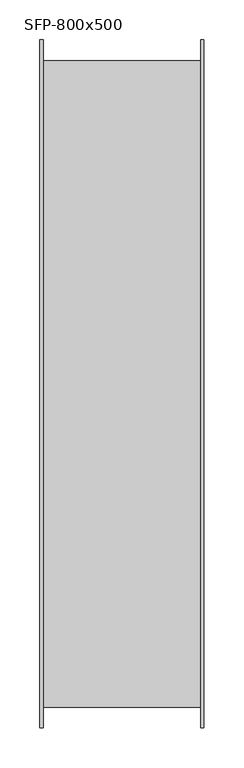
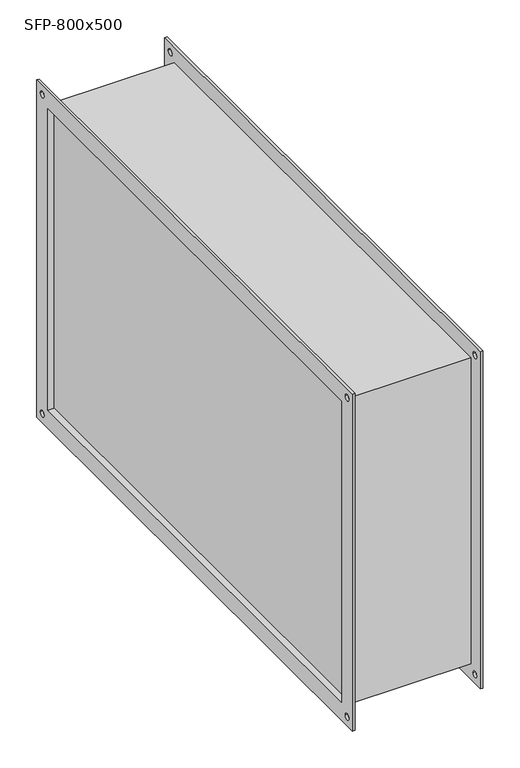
"""IFC4 building model written with IfcOpenShell, lengths in millimetres: damper geometry, СВ_ФильтрКассетный_КанальныйПрямоугольный_200-1000_SFP : SFP-800x500."""

from ifc_helpers import new_model, si_unit, frame, origin, place, context, project, spatial, polyline, circle_curve, outline, extrude, source, transform, mapped, element, save
from ifc_brep_helpers import plane_surface, revolved_surface, advanced_brep


def sfp_800x500_3db78f44(model_context):
    return source(origin(), model_context, "Body", "SolidModel", [
        extrude(outline(polyline([(92.5, 400.0), (92.5, -400.0), (-92.5, -400.0), (-92.5, 400.0), (92.5, 400.0)])), frame((0.0, 0.0, -250.0), z_axis=(0.0, 0.0, 1.0), x_axis=(1.0, 0.0, 0.0)), (0.0, 0.0, 1.0), 500.0),
        advanced_brep(
        [(98.5, -404.0, 254.0), (-98.5, -404.0, 254.0), (-98.5, -404.0, -254.0), (98.5, -404.0, -254.0), (-98.5, 404.0, -254.0), (98.5, 404.0, -254.0), (-98.5, 404.0, 254.0), (98.5, 404.0, 254.0), (-102.5, -430.0, 280.0), (-102.5, 430.0, 280.0), (-102.5, 430.0, -280.0), (-102.5, -430.0, -280.0), (-102.5, -400.0, 250.0), (-102.5, -400.0, -250.0), (-102.5, 400.0, -250.0), (-102.5, 400.0, 250.0), (-102.5, 410.0, 265.0), (-102.5, 420.0, 265.0), (-102.5, -420.0, 265.0), (-102.5, -410.0, 265.0), (-102.5, -420.0, -265.0), (-102.5, -410.0, -265.0), (-102.5, 410.0, -265.0), (-102.5, 420.0, -265.0), (-98.5, -430.0, 280.0), (-98.5, -430.0, -280.0), (-98.5, 430.0, -280.0), (-98.5, 430.0, 280.0), (-98.5, 420.0, 265.0), (-98.5, 410.0, 265.0), (-98.5, -410.0, 265.0), (-98.5, -420.0, 265.0), (-98.5, -410.0, -265.0), (-98.5, -420.0, -265.0), (-98.5, 420.0, -265.0), (-98.5, 410.0, -265.0), (98.5, 430.0, 280.0), (98.5, 430.0, -280.0), (98.5, -430.0, -280.0), (98.5, -430.0, 280.0), (98.5, 410.0, 265.0), (98.5, 420.0, 265.0), (98.5, -420.0, 265.0), (98.5, -410.0, 265.0), (98.5, -420.0, -265.0), (98.5, -410.0, -265.0), (98.5, 410.0, -265.0), (98.5, 420.0, -265.0), (102.5, 430.0, 280.0), (102.5, -430.0, 280.0), (102.5, -430.0, -280.0), (102.5, 430.0, -280.0), (102.5, 400.0, 250.0), (102.5, 400.0, -250.0), (102.5, -400.0, -250.0), (102.5, -400.0, 250.0), (102.5, 420.0, 265.0), (102.5, 410.0, 265.0), (102.5, -410.0, 265.0), (102.5, -420.0, 265.0), (102.5, -410.0, -265.0), (102.5, -420.0, -265.0), (102.5, 420.0, -265.0), (102.5, 410.0, -265.0)],
        [
            (0, 1),
            (1, 2),
            (2, 3),
            (3, 0),
            (2, 4),
            (4, 5),
            (5, 3),
            (4, 6),
            (6, 7),
            (7, 5),
            (0, 7),
            (6, 1),
            (8, 9),
            (9, 10),
            (10, 11),
            (11, 8),
            (12, 13),
            (13, 14),
            (14, 15),
            (15, 12),
            (16, 17, circle_curve(frame((-102.5, 415.0, 265.0), z_axis=(1.0, 0.0, 0.0), x_axis=(0.0, 1.0, 0.0)), 5.0)),
            (17, 16, circle_curve(frame((-102.5, 415.0, 265.0), z_axis=(1.0, 0.0, 0.0), x_axis=(0.0, 1.0, 0.0)), 5.0)),
            (18, 19, circle_curve(frame((-102.5, -415.0, 265.0), z_axis=(1.0, 0.0, 0.0), x_axis=(0.0, 1.0, 0.0)), 5.0)),
            (19, 18, circle_curve(frame((-102.5, -415.0, 265.0), z_axis=(1.0, 0.0, 0.0), x_axis=(0.0, 1.0, 0.0)), 5.0)),
            (20, 21, circle_curve(frame((-102.5, -415.0, -265.0), z_axis=(1.0, 0.0, 0.0), x_axis=(0.0, 1.0, 0.0)), 5.0)),
            (21, 20, circle_curve(frame((-102.5, -415.0, -265.0), z_axis=(1.0, 0.0, 0.0), x_axis=(0.0, 1.0, 0.0)), 5.0)),
            (22, 23, circle_curve(frame((-102.5, 415.0, -265.0), z_axis=(1.0, 0.0, 0.0), x_axis=(0.0, 1.0, 0.0)), 5.0)),
            (23, 22, circle_curve(frame((-102.5, 415.0, -265.0), z_axis=(1.0, 0.0, 0.0), x_axis=(0.0, 1.0, 0.0)), 5.0)),
            (24, 25),
            (25, 26),
            (26, 27),
            (27, 24),
            (28, 29, circle_curve(frame((-98.5, 415.0, 265.0), z_axis=(-1.0, 0.0, 0.0), x_axis=(0.0, 1.0, 0.0)), 5.0)),
            (29, 28, circle_curve(frame((-98.5, 415.0, 265.0), z_axis=(-1.0, 0.0, 0.0), x_axis=(0.0, 1.0, 0.0)), 5.0)),
            (30, 31, circle_curve(frame((-98.5, -415.0, 265.0), z_axis=(-1.0, 0.0, 0.0), x_axis=(0.0, 1.0, 0.0)), 5.0)),
            (31, 30, circle_curve(frame((-98.5, -415.0, 265.0), z_axis=(-1.0, 0.0, 0.0), x_axis=(0.0, 1.0, 0.0)), 5.0)),
            (32, 33, circle_curve(frame((-98.5, -415.0, -265.0), z_axis=(-1.0, 0.0, 0.0), x_axis=(0.0, 1.0, 0.0)), 5.0)),
            (33, 32, circle_curve(frame((-98.5, -415.0, -265.0), z_axis=(-1.0, 0.0, 0.0), x_axis=(0.0, 1.0, 0.0)), 5.0)),
            (34, 35, circle_curve(frame((-98.5, 415.0, -265.0), z_axis=(-1.0, 0.0, 0.0), x_axis=(0.0, 1.0, 0.0)), 5.0)),
            (35, 34, circle_curve(frame((-98.5, 415.0, -265.0), z_axis=(-1.0, 0.0, 0.0), x_axis=(0.0, 1.0, 0.0)), 5.0)),
            (11, 25),
            (24, 8),
            (10, 26),
            (9, 27),
            (36, 37),
            (37, 38),
            (38, 39),
            (39, 36),
            (40, 41, circle_curve(frame((98.5, 415.0, 265.0), z_axis=(1.0, 0.0, 0.0), x_axis=(0.0, 1.0, 0.0)), 5.0)),
            (41, 40, circle_curve(frame((98.5, 415.0, 265.0), z_axis=(1.0, 0.0, 0.0), x_axis=(0.0, 1.0, 0.0)), 5.0)),
            (42, 43, circle_curve(frame((98.5, -415.0, 265.0), z_axis=(1.0, 0.0, 0.0), x_axis=(0.0, 1.0, 0.0)), 5.0)),
            (43, 42, circle_curve(frame((98.5, -415.0, 265.0), z_axis=(1.0, 0.0, 0.0), x_axis=(0.0, 1.0, 0.0)), 5.0)),
            (44, 45, circle_curve(frame((98.5, -415.0, -265.0), z_axis=(1.0, 0.0, 0.0), x_axis=(0.0, 1.0, 0.0)), 5.0)),
            (45, 44, circle_curve(frame((98.5, -415.0, -265.0), z_axis=(1.0, 0.0, 0.0), x_axis=(0.0, 1.0, 0.0)), 5.0)),
            (46, 47, circle_curve(frame((98.5, 415.0, -265.0), z_axis=(1.0, 0.0, 0.0), x_axis=(0.0, 1.0, 0.0)), 5.0)),
            (47, 46, circle_curve(frame((98.5, 415.0, -265.0), z_axis=(1.0, 0.0, 0.0), x_axis=(0.0, 1.0, 0.0)), 5.0)),
            (48, 49),
            (49, 50),
            (50, 51),
            (51, 48),
            (52, 53),
            (53, 54),
            (54, 55),
            (55, 52),
            (56, 57, circle_curve(frame((102.5, 415.0, 265.0), z_axis=(-1.0, 0.0, 0.0), x_axis=(0.0, 1.0, 0.0)), 5.0)),
            (57, 56, circle_curve(frame((102.5, 415.0, 265.0), z_axis=(-1.0, 0.0, 0.0), x_axis=(0.0, 1.0, 0.0)), 5.0)),
            (58, 59, circle_curve(frame((102.5, -415.0, 265.0), z_axis=(-1.0, 0.0, 0.0), x_axis=(0.0, 1.0, 0.0)), 5.0)),
            (59, 58, circle_curve(frame((102.5, -415.0, 265.0), z_axis=(-1.0, 0.0, 0.0), x_axis=(0.0, 1.0, 0.0)), 5.0)),
            (60, 61, circle_curve(frame((102.5, -415.0, -265.0), z_axis=(-1.0, 0.0, 0.0), x_axis=(0.0, 1.0, 0.0)), 5.0)),
            (61, 60, circle_curve(frame((102.5, -415.0, -265.0), z_axis=(-1.0, 0.0, 0.0), x_axis=(0.0, 1.0, 0.0)), 5.0)),
            (62, 63, circle_curve(frame((102.5, 415.0, -265.0), z_axis=(-1.0, 0.0, 0.0), x_axis=(0.0, 1.0, 0.0)), 5.0)),
            (63, 62, circle_curve(frame((102.5, 415.0, -265.0), z_axis=(-1.0, 0.0, 0.0), x_axis=(0.0, 1.0, 0.0)), 5.0)),
            (39, 49),
            (48, 36),
            (38, 50),
            (37, 51),
            (15, 52),
            (55, 12),
            (14, 53),
            (13, 54),
            (16, 29),
            (28, 17),
            (40, 57),
            (56, 41),
            (18, 31),
            (30, 19),
            (42, 59),
            (58, 43),
            (20, 33),
            (32, 21),
            (44, 61),
            (60, 45),
            (22, 35),
            (34, 23),
            (46, 63),
            (62, 47),
        ],
        [
            plane_surface(frame((98.5, -404.0, 254.0), z_axis=(0.0, -1.0, 0.0), x_axis=(-1.0, 0.0, 0.0))),
            plane_surface(frame((98.5, -404.0, -254.0), z_axis=(0.0, 0.0, -1.0), x_axis=(-1.0, 0.0, 0.0))),
            plane_surface(frame((98.5, 404.0, -254.0), z_axis=(0.0, 1.0, 0.0), x_axis=(-1.0, 0.0, 0.0))),
            plane_surface(frame((98.5, 404.0, 254.0), z_axis=(0.0, 0.0, 1.0), x_axis=(-1.0, 0.0, 0.0))),
            plane_surface(frame((-102.5, -430.0, 280.0), z_axis=(-1.0, 0.0, 0.0), x_axis=(0.0, 0.0, 1.0))),
            plane_surface(frame((-98.5, -430.0, 280.0), z_axis=(1.0, 0.0, 0.0), x_axis=(0.0, 0.0, -1.0))),
            plane_surface(frame((-98.5, -430.0, 280.0), z_axis=(0.0, -1.0, 0.0), x_axis=(-1.0, 0.0, 0.0))),
            plane_surface(frame((-98.5, -430.0, -280.0), z_axis=(0.0, 0.0, -1.0), x_axis=(-1.0, 0.0, 0.0))),
            plane_surface(frame((-98.5, 430.0, -280.0), z_axis=(0.0, 1.0, 0.0), x_axis=(-1.0, 0.0, 0.0))),
            plane_surface(frame((-98.5, 430.0, 280.0), z_axis=(0.0, 0.0, 1.0), x_axis=(-1.0, 0.0, 0.0))),
            plane_surface(frame((98.5, 400.0, -250.0), z_axis=(-1.0, 0.0, 0.0), x_axis=(0.0, 0.0, 1.0))),
            plane_surface(frame((102.5, 400.0, -250.0), z_axis=(1.0, 0.0, 0.0), x_axis=(0.0, 0.0, -1.0))),
            plane_surface(frame((102.5, 430.0, 280.0), z_axis=(0.0, 0.0, 1.0), x_axis=(-1.0, 0.0, 0.0))),
            plane_surface(frame((102.5, -430.0, 280.0), z_axis=(0.0, -1.0, 0.0), x_axis=(-1.0, 0.0, 0.0))),
            plane_surface(frame((102.5, -430.0, -280.0), z_axis=(0.0, 0.0, -1.0), x_axis=(-1.0, 0.0, 0.0))),
            plane_surface(frame((102.5, 430.0, -280.0), z_axis=(0.0, 1.0, 0.0), x_axis=(-1.0, 0.0, 0.0))),
            plane_surface(frame((-98.5, -400.0, 250.0), z_axis=(0.0, 0.0, -1.0), x_axis=(-1.0, 0.0, 0.0))),
            plane_surface(frame((-98.5, 400.0, 250.0), z_axis=(0.0, -1.0, 0.0), x_axis=(-1.0, 0.0, 0.0))),
            plane_surface(frame((-98.5, 400.0, -250.0), z_axis=(0.0, 0.0, 1.0), x_axis=(-1.0, 0.0, 0.0))),
            plane_surface(frame((-98.5, -400.0, -250.0), z_axis=(0.0, 1.0, 0.0), x_axis=(-1.0, 0.0, 0.0))),
            revolved_surface(polyline([(-98.5, 420.0, 265.0), (-102.5, 420.0, 265.0)]), (-102.5, 415.0, 265.0), (1.0, 0.0, 0.0)),
            revolved_surface(polyline([(102.5, 420.0, 265.0), (98.5, 420.0, 265.0)]), (-102.5, 415.0, 265.0), (1.0, 0.0, 0.0)),
            revolved_surface(polyline([(-98.5, -410.0, 265.0), (-102.5, -410.0, 265.0)]), (0.0, -415.0, 265.0), (1.0, 0.0, 0.0)),
            revolved_surface(polyline([(102.5, -410.0, 265.0), (98.5, -410.0, 265.0)]), (0.0, -415.0, 265.0), (1.0, 0.0, 0.0)),
            revolved_surface(polyline([(-98.5, -410.0, -265.0), (-102.5, -410.0, -265.0)]), (0.0, -415.0, -265.0), (1.0, 0.0, 0.0)),
            revolved_surface(polyline([(102.5, -410.0, -265.0), (98.5, -410.0, -265.0)]), (0.0, -415.0, -265.0), (1.0, 0.0, 0.0)),
            revolved_surface(polyline([(-98.5, 420.0, -265.0), (-102.5, 420.0, -265.0)]), (0.0, 415.0, -265.0), (1.0, 0.0, 0.0)),
            revolved_surface(polyline([(102.5, 420.0, -265.0), (98.5, 420.0, -265.0)]), (0.0, 415.0, -265.0), (1.0, 0.0, 0.0)),
        ],
        [
            (0, [[1, 2, 3, 4]]),
            (1, [[-3, 5, 6, 7]]),
            (2, [[-6, 8, 9, 10]]),
            (3, [[-1, 11, -9, 12]]),
            (4, [[13, 14, 15, 16], [17, 18, 19, 20], [21, 22], [23, 24], [25, 26], [27, 28]]),
            (5, [[29, 30, 31, 32], [-2, -12, -8, -5], [33, 34], [35, 36], [37, 38], [39, 40]]),
            (6, [[-16, 41, -29, 42]]),
            (7, [[-15, 43, -30, -41]]),
            (8, [[-14, 44, -31, -43]]),
            (9, [[-13, -42, -32, -44]]),
            (10, [[45, 46, 47, 48], [-4, -7, -10, -11], [49, 50], [51, 52], [53, 54], [55, 56]]),
            (11, [[57, 58, 59, 60], [61, 62, 63, 64], [65, 66], [67, 68], [69, 70], [71, 72]]),
            (12, [[-48, 73, -57, 74]]),
            (13, [[-47, 75, -58, -73]]),
            (14, [[-46, 76, -59, -75]]),
            (15, [[-45, -74, -60, -76]]),
            (16, [[-20, 77, -64, 78]]),
            (17, [[-77, -19, 79, -61]]),
            (18, [[-79, -18, 80, -62]]),
            (19, [[-80, -17, -78, -63]]),
            (20, [[81, -33, 82, -21]]),
            (21, [[83, -65, 84, -49]]),
            (20, [[-81, -22, -82, -34]]),
            (21, [[-83, -50, -84, -66]]),
            (22, [[85, -35, 86, -23]]),
            (23, [[87, -67, 88, -51]]),
            (22, [[-85, -24, -86, -36]]),
            (23, [[-87, -52, -88, -68]]),
            (24, [[89, -37, 90, -25]]),
            (25, [[91, -69, 92, -53]]),
            (24, [[-89, -26, -90, -38]]),
            (25, [[-91, -54, -92, -70]]),
            (26, [[93, -39, 94, -27]]),
            (27, [[95, -71, 96, -55]]),
            (26, [[-93, -28, -94, -40]]),
            (27, [[-95, -56, -96, -72]]),
        ],
    ),
    ])


if __name__ == "__main__":
    model = new_model("IFC4")
    model_context = context("Model", 3, world=origin())
    ifc_project = project(units=[si_unit("LENGTHUNIT", "METRE", prefix="MILLI")], contexts=[model_context])
    site = spatial("IfcSite", under=ifc_project)
    building = spatial("IfcBuilding", under=site)
    placement = place(None, origin())
    sfp_800x500_shape = sfp_800x500_3db78f44(model_context)
    element("IfcDamper", 1, ObjectType="СВ_ФильтрКассетный_КанальныйПрямоугольный_200-1000_SFP : SFP-800x500", at=placement, inside=building, context=model_context, shape_type="MappedRepresentation", body=[
        mapped(sfp_800x500_shape, transform((0.0, 0.0, 0.0), x_axis=(1.0, 0.0, 0.0), y_axis=(0.0, 1.0, 0.0), z_axis=(0.0, 0.0, 1.0))),
    ])
    save(model, "model.ifc")
